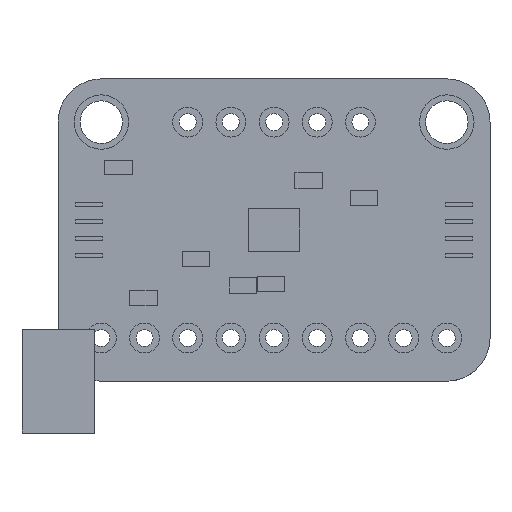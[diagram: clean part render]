
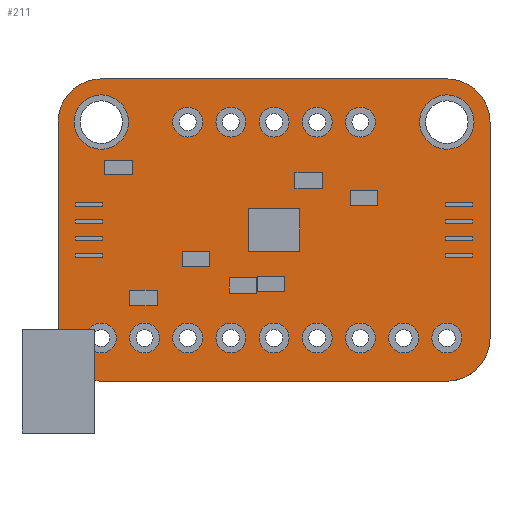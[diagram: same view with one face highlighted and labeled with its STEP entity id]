
A CAD part, top view. The second image highlights one B-rep face of the part: STEP entity #211.
In plain terms, the highlighted planar face has unit normal (0, 0, 1).
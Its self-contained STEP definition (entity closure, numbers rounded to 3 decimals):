
#175 = EDGE_CURVE('',#176,#178,#180,.T.);
#176 = VERTEX_POINT('',#177);
#177 = CARTESIAN_POINT('',(0.,2.54,1.6));
#178 = VERTEX_POINT('',#179);
#179 = CARTESIAN_POINT('',(0.,15.24,1.6));
#180 = LINE('',#181,#182);
#181 = CARTESIAN_POINT('',(0.,0.,1.6));
#182 = VECTOR('',#183,1.);
#183 = DIRECTION('',(-0.,1.,0.));
#211 = ADVANCED_FACE('',(#212,#273,#284,#295,#306,#317,#328,#339,#350,
    #361,#372,#383,#394,#405,#416,#427,#438),#449,.T.);
#212 = FACE_BOUND('',#213,.T.);
#213 = EDGE_LOOP('',(#214,#215,#224,#232,#241,#249,#258,#266));
#214 = ORIENTED_EDGE('',*,*,#175,.F.);
#215 = ORIENTED_EDGE('',*,*,#216,.T.);
#216 = EDGE_CURVE('',#176,#217,#219,.T.);
#217 = VERTEX_POINT('',#218);
#218 = CARTESIAN_POINT('',(2.54,0.,1.6));
#219 = CIRCLE('',#220,2.54);
#220 = AXIS2_PLACEMENT_3D('',#221,#222,#223);
#221 = CARTESIAN_POINT('',(2.54,2.54,1.6));
#222 = DIRECTION('',(0.,0.,1.));
#223 = DIRECTION('',(0.,-1.,0.));
#224 = ORIENTED_EDGE('',*,*,#225,.T.);
#225 = EDGE_CURVE('',#217,#226,#228,.T.);
#226 = VERTEX_POINT('',#227);
#227 = CARTESIAN_POINT('',(22.86,0.,1.6));
#228 = LINE('',#229,#230);
#229 = CARTESIAN_POINT('',(0.,0.,1.6));
#230 = VECTOR('',#231,1.);
#231 = DIRECTION('',(1.,0.,-0.));
#232 = ORIENTED_EDGE('',*,*,#233,.F.);
#233 = EDGE_CURVE('',#234,#226,#236,.T.);
#234 = VERTEX_POINT('',#235);
#235 = CARTESIAN_POINT('',(25.4,2.54,1.6));
#236 = CIRCLE('',#237,2.54);
#237 = AXIS2_PLACEMENT_3D('',#238,#239,#240);
#238 = CARTESIAN_POINT('',(22.86,2.54,1.6));
#239 = DIRECTION('',(-0.,-0.,-1.));
#240 = DIRECTION('',(0.,-1.,0.));
#241 = ORIENTED_EDGE('',*,*,#242,.T.);
#242 = EDGE_CURVE('',#234,#243,#245,.T.);
#243 = VERTEX_POINT('',#244);
#244 = CARTESIAN_POINT('',(25.4,15.24,1.6));
#245 = LINE('',#246,#247);
#246 = CARTESIAN_POINT('',(25.4,0.,1.6));
#247 = VECTOR('',#248,1.);
#248 = DIRECTION('',(-0.,1.,0.));
#249 = ORIENTED_EDGE('',*,*,#250,.T.);
#250 = EDGE_CURVE('',#243,#251,#253,.T.);
#251 = VERTEX_POINT('',#252);
#252 = CARTESIAN_POINT('',(22.86,17.78,1.6));
#253 = CIRCLE('',#254,2.54);
#254 = AXIS2_PLACEMENT_3D('',#255,#256,#257);
#255 = CARTESIAN_POINT('',(22.86,15.24,1.6));
#256 = DIRECTION('',(0.,0.,1.));
#257 = DIRECTION('',(0.,-1.,0.));
#258 = ORIENTED_EDGE('',*,*,#259,.F.);
#259 = EDGE_CURVE('',#260,#251,#262,.T.);
#260 = VERTEX_POINT('',#261);
#261 = CARTESIAN_POINT('',(2.54,17.78,1.6));
#262 = LINE('',#263,#264);
#263 = CARTESIAN_POINT('',(0.,17.78,1.6));
#264 = VECTOR('',#265,1.);
#265 = DIRECTION('',(1.,0.,-0.));
#266 = ORIENTED_EDGE('',*,*,#267,.F.);
#267 = EDGE_CURVE('',#178,#260,#268,.T.);
#268 = CIRCLE('',#269,2.54);
#269 = AXIS2_PLACEMENT_3D('',#270,#271,#272);
#270 = CARTESIAN_POINT('',(2.54,15.24,1.6));
#271 = DIRECTION('',(-0.,-0.,-1.));
#272 = DIRECTION('',(0.,-1.,0.));
#273 = FACE_BOUND('',#274,.T.);
#274 = EDGE_LOOP('',(#275));
#275 = ORIENTED_EDGE('',*,*,#276,.F.);
#276 = EDGE_CURVE('',#277,#277,#279,.T.);
#277 = VERTEX_POINT('',#278);
#278 = CARTESIAN_POINT('',(3.04,2.54,1.6));
#279 = CIRCLE('',#280,0.5);
#280 = AXIS2_PLACEMENT_3D('',#281,#282,#283);
#281 = CARTESIAN_POINT('',(2.54,2.54,1.6));
#282 = DIRECTION('',(0.,0.,1.));
#283 = DIRECTION('',(1.,0.,-0.));
#284 = FACE_BOUND('',#285,.T.);
#285 = EDGE_LOOP('',(#286));
#286 = ORIENTED_EDGE('',*,*,#287,.F.);
#287 = EDGE_CURVE('',#288,#288,#290,.T.);
#288 = VERTEX_POINT('',#289);
#289 = CARTESIAN_POINT('',(5.58,2.54,1.6));
#290 = CIRCLE('',#291,0.5);
#291 = AXIS2_PLACEMENT_3D('',#292,#293,#294);
#292 = CARTESIAN_POINT('',(5.08,2.54,1.6));
#293 = DIRECTION('',(0.,0.,1.));
#294 = DIRECTION('',(1.,0.,-0.));
#295 = FACE_BOUND('',#296,.T.);
#296 = EDGE_LOOP('',(#297));
#297 = ORIENTED_EDGE('',*,*,#298,.F.);
#298 = EDGE_CURVE('',#299,#299,#301,.T.);
#299 = VERTEX_POINT('',#300);
#300 = CARTESIAN_POINT('',(8.12,2.54,1.6));
#301 = CIRCLE('',#302,0.5);
#302 = AXIS2_PLACEMENT_3D('',#303,#304,#305);
#303 = CARTESIAN_POINT('',(7.62,2.54,1.6));
#304 = DIRECTION('',(0.,0.,1.));
#305 = DIRECTION('',(1.,0.,-0.));
#306 = FACE_BOUND('',#307,.T.);
#307 = EDGE_LOOP('',(#308));
#308 = ORIENTED_EDGE('',*,*,#309,.F.);
#309 = EDGE_CURVE('',#310,#310,#312,.T.);
#310 = VERTEX_POINT('',#311);
#311 = CARTESIAN_POINT('',(10.66,2.54,1.6));
#312 = CIRCLE('',#313,0.5);
#313 = AXIS2_PLACEMENT_3D('',#314,#315,#316);
#314 = CARTESIAN_POINT('',(10.16,2.54,1.6));
#315 = DIRECTION('',(0.,0.,1.));
#316 = DIRECTION('',(1.,0.,-0.));
#317 = FACE_BOUND('',#318,.T.);
#318 = EDGE_LOOP('',(#319));
#319 = ORIENTED_EDGE('',*,*,#320,.F.);
#320 = EDGE_CURVE('',#321,#321,#323,.T.);
#321 = VERTEX_POINT('',#322);
#322 = CARTESIAN_POINT('',(13.2,2.54,1.6));
#323 = CIRCLE('',#324,0.5);
#324 = AXIS2_PLACEMENT_3D('',#325,#326,#327);
#325 = CARTESIAN_POINT('',(12.7,2.54,1.6));
#326 = DIRECTION('',(0.,0.,1.));
#327 = DIRECTION('',(1.,0.,-0.));
#328 = FACE_BOUND('',#329,.T.);
#329 = EDGE_LOOP('',(#330));
#330 = ORIENTED_EDGE('',*,*,#331,.F.);
#331 = EDGE_CURVE('',#332,#332,#334,.T.);
#332 = VERTEX_POINT('',#333);
#333 = CARTESIAN_POINT('',(15.74,2.54,1.6));
#334 = CIRCLE('',#335,0.5);
#335 = AXIS2_PLACEMENT_3D('',#336,#337,#338);
#336 = CARTESIAN_POINT('',(15.24,2.54,1.6));
#337 = DIRECTION('',(0.,0.,1.));
#338 = DIRECTION('',(1.,0.,-0.));
#339 = FACE_BOUND('',#340,.T.);
#340 = EDGE_LOOP('',(#341));
#341 = ORIENTED_EDGE('',*,*,#342,.F.);
#342 = EDGE_CURVE('',#343,#343,#345,.T.);
#343 = VERTEX_POINT('',#344);
#344 = CARTESIAN_POINT('',(18.28,2.54,1.6));
#345 = CIRCLE('',#346,0.5);
#346 = AXIS2_PLACEMENT_3D('',#347,#348,#349);
#347 = CARTESIAN_POINT('',(17.78,2.54,1.6));
#348 = DIRECTION('',(0.,0.,1.));
#349 = DIRECTION('',(1.,0.,-0.));
#350 = FACE_BOUND('',#351,.T.);
#351 = EDGE_LOOP('',(#352));
#352 = ORIENTED_EDGE('',*,*,#353,.F.);
#353 = EDGE_CURVE('',#354,#354,#356,.T.);
#354 = VERTEX_POINT('',#355);
#355 = CARTESIAN_POINT('',(20.82,2.54,1.6));
#356 = CIRCLE('',#357,0.5);
#357 = AXIS2_PLACEMENT_3D('',#358,#359,#360);
#358 = CARTESIAN_POINT('',(20.32,2.54,1.6));
#359 = DIRECTION('',(0.,0.,1.));
#360 = DIRECTION('',(1.,0.,-0.));
#361 = FACE_BOUND('',#362,.T.);
#362 = EDGE_LOOP('',(#363));
#363 = ORIENTED_EDGE('',*,*,#364,.F.);
#364 = EDGE_CURVE('',#365,#365,#367,.T.);
#365 = VERTEX_POINT('',#366);
#366 = CARTESIAN_POINT('',(23.36,2.54,1.6));
#367 = CIRCLE('',#368,0.5);
#368 = AXIS2_PLACEMENT_3D('',#369,#370,#371);
#369 = CARTESIAN_POINT('',(22.86,2.54,1.6));
#370 = DIRECTION('',(0.,0.,1.));
#371 = DIRECTION('',(1.,0.,-0.));
#372 = FACE_BOUND('',#373,.T.);
#373 = EDGE_LOOP('',(#374));
#374 = ORIENTED_EDGE('',*,*,#375,.F.);
#375 = EDGE_CURVE('',#376,#376,#378,.T.);
#376 = VERTEX_POINT('',#377);
#377 = CARTESIAN_POINT('',(3.79,15.24,1.6));
#378 = CIRCLE('',#379,1.25);
#379 = AXIS2_PLACEMENT_3D('',#380,#381,#382);
#380 = CARTESIAN_POINT('',(2.54,15.24,1.6));
#381 = DIRECTION('',(0.,0.,1.));
#382 = DIRECTION('',(1.,0.,-0.));
#383 = FACE_BOUND('',#384,.T.);
#384 = EDGE_LOOP('',(#385));
#385 = ORIENTED_EDGE('',*,*,#386,.F.);
#386 = EDGE_CURVE('',#387,#387,#389,.T.);
#387 = VERTEX_POINT('',#388);
#388 = CARTESIAN_POINT('',(8.12,15.24,1.6));
#389 = CIRCLE('',#390,0.5);
#390 = AXIS2_PLACEMENT_3D('',#391,#392,#393);
#391 = CARTESIAN_POINT('',(7.62,15.24,1.6));
#392 = DIRECTION('',(0.,0.,1.));
#393 = DIRECTION('',(1.,0.,-0.));
#394 = FACE_BOUND('',#395,.T.);
#395 = EDGE_LOOP('',(#396));
#396 = ORIENTED_EDGE('',*,*,#397,.F.);
#397 = EDGE_CURVE('',#398,#398,#400,.T.);
#398 = VERTEX_POINT('',#399);
#399 = CARTESIAN_POINT('',(10.66,15.24,1.6));
#400 = CIRCLE('',#401,0.5);
#401 = AXIS2_PLACEMENT_3D('',#402,#403,#404);
#402 = CARTESIAN_POINT('',(10.16,15.24,1.6));
#403 = DIRECTION('',(0.,0.,1.));
#404 = DIRECTION('',(1.,0.,-0.));
#405 = FACE_BOUND('',#406,.T.);
#406 = EDGE_LOOP('',(#407));
#407 = ORIENTED_EDGE('',*,*,#408,.F.);
#408 = EDGE_CURVE('',#409,#409,#411,.T.);
#409 = VERTEX_POINT('',#410);
#410 = CARTESIAN_POINT('',(13.2,15.24,1.6));
#411 = CIRCLE('',#412,0.5);
#412 = AXIS2_PLACEMENT_3D('',#413,#414,#415);
#413 = CARTESIAN_POINT('',(12.7,15.24,1.6));
#414 = DIRECTION('',(0.,0.,1.));
#415 = DIRECTION('',(1.,0.,-0.));
#416 = FACE_BOUND('',#417,.T.);
#417 = EDGE_LOOP('',(#418));
#418 = ORIENTED_EDGE('',*,*,#419,.F.);
#419 = EDGE_CURVE('',#420,#420,#422,.T.);
#420 = VERTEX_POINT('',#421);
#421 = CARTESIAN_POINT('',(15.74,15.24,1.6));
#422 = CIRCLE('',#423,0.5);
#423 = AXIS2_PLACEMENT_3D('',#424,#425,#426);
#424 = CARTESIAN_POINT('',(15.24,15.24,1.6));
#425 = DIRECTION('',(0.,0.,1.));
#426 = DIRECTION('',(1.,0.,-0.));
#427 = FACE_BOUND('',#428,.T.);
#428 = EDGE_LOOP('',(#429));
#429 = ORIENTED_EDGE('',*,*,#430,.F.);
#430 = EDGE_CURVE('',#431,#431,#433,.T.);
#431 = VERTEX_POINT('',#432);
#432 = CARTESIAN_POINT('',(18.28,15.24,1.6));
#433 = CIRCLE('',#434,0.5);
#434 = AXIS2_PLACEMENT_3D('',#435,#436,#437);
#435 = CARTESIAN_POINT('',(17.78,15.24,1.6));
#436 = DIRECTION('',(0.,0.,1.));
#437 = DIRECTION('',(1.,0.,-0.));
#438 = FACE_BOUND('',#439,.T.);
#439 = EDGE_LOOP('',(#440));
#440 = ORIENTED_EDGE('',*,*,#441,.F.);
#441 = EDGE_CURVE('',#442,#442,#444,.T.);
#442 = VERTEX_POINT('',#443);
#443 = CARTESIAN_POINT('',(24.11,15.24,1.6));
#444 = CIRCLE('',#445,1.25);
#445 = AXIS2_PLACEMENT_3D('',#446,#447,#448);
#446 = CARTESIAN_POINT('',(22.86,15.24,1.6));
#447 = DIRECTION('',(0.,0.,1.));
#448 = DIRECTION('',(1.,0.,-0.));
#449 = PLANE('',#450);
#450 = AXIS2_PLACEMENT_3D('',#451,#452,#453);
#451 = CARTESIAN_POINT('',(0.,0.,1.6));
#452 = DIRECTION('',(0.,0.,1.));
#453 = DIRECTION('',(1.,0.,-0.));
